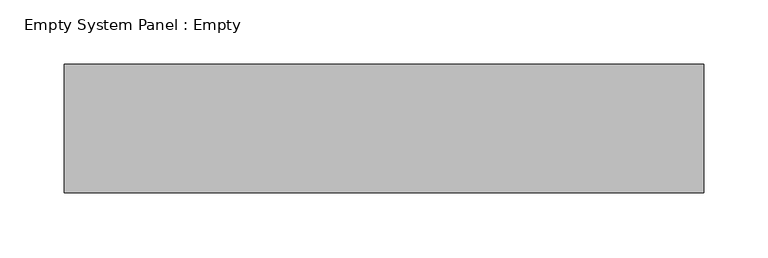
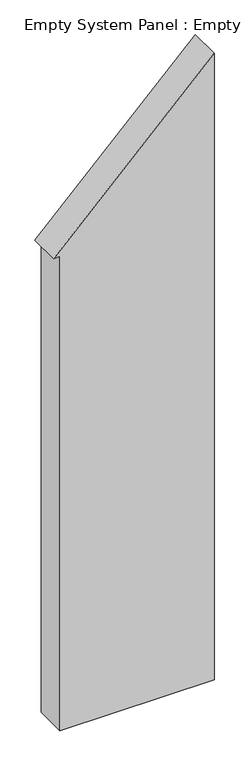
"""IFC4 building model written with IfcOpenShell, lengths in millimetres: plate geometry, Empty System Panel : Empty."""

from ifc_helpers import new_model, si_unit, frame, origin, place, context, project, spatial, polyline, outline, extrude, source, transform, mapped, element, save


def empty_system_panel_empty_86ae6d13(model_context):
    return source(origin(), model_context, "Body", "SweptSolid", [
        extrude(outline(polyline([(0.0, -228.680783), (0.0, 248.680783), (2052.2591854, 248.680783), (1554.214977, -248.680783), (1554.214977, -228.680783), (0.0, -228.680783)])), frame((0.0, -50.0, 0.0), z_axis=(0.0, 1.0, 0.0), x_axis=(0.0, 0.0, 1.0)), (0.0, 0.0, 1.0), 100.0),
    ])


if __name__ == "__main__":
    model = new_model("IFC4")
    model_context = context("Model", 3, world=origin())
    ifc_project = project(units=[si_unit("LENGTHUNIT", "METRE", prefix="MILLI")], contexts=[model_context])
    site = spatial("IfcSite", under=ifc_project)
    building = spatial("IfcBuilding", under=site)
    placement = place(None, origin())
    empty_system_panel_empty_shape = empty_system_panel_empty_86ae6d13(model_context)
    element("IfcPlate", 1, ObjectType="Empty System Panel : Empty", at=placement, inside=building, context=model_context, shape_type="MappedRepresentation", body=[
        mapped(empty_system_panel_empty_shape, transform((0.0, 0.0, 0.0), x_axis=(1.0, 0.0, 0.0), y_axis=(0.0, 1.0, 0.0), z_axis=(0.0, 0.0, 1.0))),
    ])
    save(model, "model.ifc")
